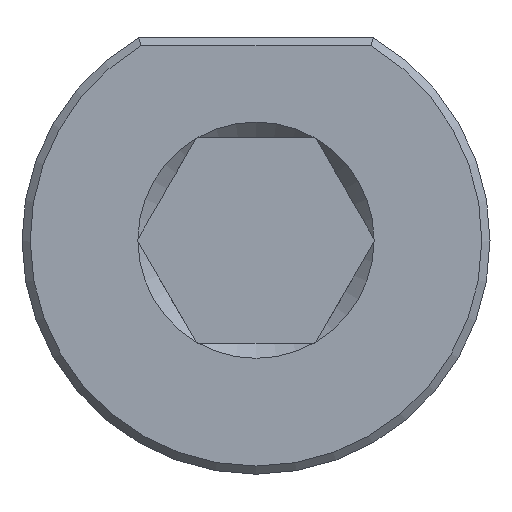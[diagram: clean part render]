
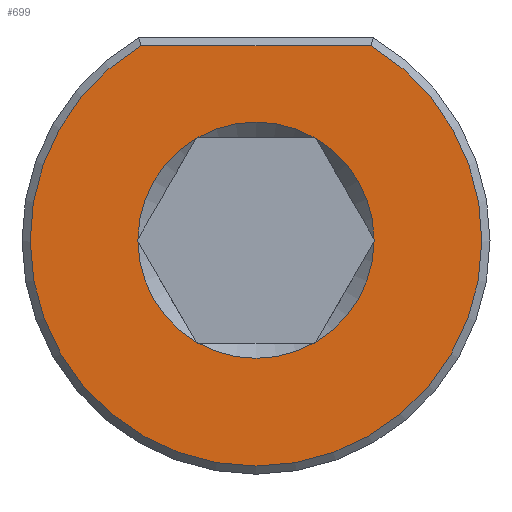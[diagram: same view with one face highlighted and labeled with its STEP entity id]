
A CAD part, front view. The second image highlights one B-rep face of the part: STEP entity #699.
In plain terms, the highlighted planar face has unit normal (0, -1, 0).
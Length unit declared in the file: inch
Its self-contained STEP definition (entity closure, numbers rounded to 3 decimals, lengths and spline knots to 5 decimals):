
#55=FACE_BOUND('',#142,.T.);
#69=PLANE('',#780);
#96=FACE_OUTER_BOUND('',#141,.T.);
#141=EDGE_LOOP('',(#540,#541));
#142=EDGE_LOOP('',(#542,#543,#544,#545,#546,#547,#548,#549,#550,#551,#552,
#553));
#191=LINE('',#1181,#226);
#226=VECTOR('',#946,0.3937);
#252=CIRCLE('',#752,0.217);
#253=CIRCLE('',#755,0.217);
#254=CIRCLE('',#758,0.217);
#255=CIRCLE('',#761,0.217);
#256=CIRCLE('',#764,0.217);
#257=CIRCLE('',#767,0.217);
#258=CIRCLE('',#769,0.217);
#259=CIRCLE('',#771,0.217);
#260=CIRCLE('',#773,0.217);
#261=CIRCLE('',#775,0.217);
#262=CIRCLE('',#777,0.217);
#263=CIRCLE('',#779,0.217);
#264=CIRCLE('',#781,0.415);
#308=VERTEX_POINT('',#1106);
#309=VERTEX_POINT('',#1108);
#310=VERTEX_POINT('',#1114);
#311=VERTEX_POINT('',#1118);
#312=VERTEX_POINT('',#1124);
#313=VERTEX_POINT('',#1128);
#314=VERTEX_POINT('',#1134);
#315=VERTEX_POINT('',#1138);
#316=VERTEX_POINT('',#1144);
#317=VERTEX_POINT('',#1148);
#318=VERTEX_POINT('',#1154);
#319=VERTEX_POINT('',#1158);
#320=VERTEX_POINT('',#1178);
#321=VERTEX_POINT('',#1179);
#378=EDGE_CURVE('',#310,#308,#252,.T.);
#382=EDGE_CURVE('',#312,#311,#253,.T.);
#386=EDGE_CURVE('',#314,#313,#254,.T.);
#389=EDGE_CURVE('',#309,#316,#255,.T.);
#393=EDGE_CURVE('',#317,#318,#256,.T.);
#397=EDGE_CURVE('',#319,#315,#257,.T.);
#398=EDGE_CURVE('',#311,#310,#258,.T.);
#399=EDGE_CURVE('',#313,#312,#259,.T.);
#400=EDGE_CURVE('',#315,#314,#260,.T.);
#401=EDGE_CURVE('',#318,#319,#261,.T.);
#402=EDGE_CURVE('',#316,#317,#262,.T.);
#403=EDGE_CURVE('',#308,#309,#263,.T.);
#404=EDGE_CURVE('',#320,#321,#264,.T.);
#405=EDGE_CURVE('',#321,#320,#191,.T.);
#540=ORIENTED_EDGE('',*,*,#404,.F.);
#541=ORIENTED_EDGE('',*,*,#405,.F.);
#542=ORIENTED_EDGE('',*,*,#397,.F.);
#543=ORIENTED_EDGE('',*,*,#401,.F.);
#544=ORIENTED_EDGE('',*,*,#393,.F.);
#545=ORIENTED_EDGE('',*,*,#402,.F.);
#546=ORIENTED_EDGE('',*,*,#389,.F.);
#547=ORIENTED_EDGE('',*,*,#403,.F.);
#548=ORIENTED_EDGE('',*,*,#378,.F.);
#549=ORIENTED_EDGE('',*,*,#398,.F.);
#550=ORIENTED_EDGE('',*,*,#382,.F.);
#551=ORIENTED_EDGE('',*,*,#399,.F.);
#552=ORIENTED_EDGE('',*,*,#386,.F.);
#553=ORIENTED_EDGE('',*,*,#400,.F.);
#699=ADVANCED_FACE('',(#96,#55),#69,.F.);
#752=AXIS2_PLACEMENT_3D('',#1116,#877,#878);
#755=AXIS2_PLACEMENT_3D('',#1126,#885,#886);
#758=AXIS2_PLACEMENT_3D('',#1136,#893,#894);
#761=AXIS2_PLACEMENT_3D('',#1145,#900,#901);
#764=AXIS2_PLACEMENT_3D('',#1155,#908,#909);
#767=AXIS2_PLACEMENT_3D('',#1164,#916,#917);
#769=AXIS2_PLACEMENT_3D('',#1166,#920,#921);
#771=AXIS2_PLACEMENT_3D('',#1168,#924,#925);
#773=AXIS2_PLACEMENT_3D('',#1170,#928,#929);
#775=AXIS2_PLACEMENT_3D('',#1172,#932,#933);
#777=AXIS2_PLACEMENT_3D('',#1174,#936,#937);
#779=AXIS2_PLACEMENT_3D('',#1176,#940,#941);
#780=AXIS2_PLACEMENT_3D('',#1177,#942,#943);
#781=AXIS2_PLACEMENT_3D('',#1180,#944,#945);
#877=DIRECTION('center_axis',(0.,-1.,0.));
#878=DIRECTION('ref_axis',(1.,0.,0.));
#885=DIRECTION('center_axis',(0.,-1.,0.));
#886=DIRECTION('ref_axis',(1.,0.,0.));
#893=DIRECTION('center_axis',(0.,-1.,0.));
#894=DIRECTION('ref_axis',(1.,0.,0.));
#900=DIRECTION('center_axis',(0.,-1.,0.));
#901=DIRECTION('ref_axis',(1.,0.,0.));
#908=DIRECTION('center_axis',(0.,-1.,0.));
#909=DIRECTION('ref_axis',(1.,0.,0.));
#916=DIRECTION('center_axis',(0.,-1.,0.));
#917=DIRECTION('ref_axis',(1.,0.,0.));
#920=DIRECTION('center_axis',(0.,-1.,0.));
#921=DIRECTION('ref_axis',(1.,0.,0.));
#924=DIRECTION('center_axis',(0.,-1.,0.));
#925=DIRECTION('ref_axis',(1.,0.,0.));
#928=DIRECTION('center_axis',(0.,-1.,0.));
#929=DIRECTION('ref_axis',(1.,0.,0.));
#932=DIRECTION('center_axis',(0.,-1.,0.));
#933=DIRECTION('ref_axis',(1.,0.,0.));
#936=DIRECTION('center_axis',(0.,-1.,0.));
#937=DIRECTION('ref_axis',(1.,0.,0.));
#940=DIRECTION('center_axis',(0.,-1.,0.));
#941=DIRECTION('ref_axis',(1.,0.,0.));
#942=DIRECTION('center_axis',(0.,1.,0.));
#943=DIRECTION('ref_axis',(1.,0.,0.));
#944=DIRECTION('center_axis',(0.,1.,0.));
#945=DIRECTION('ref_axis',(-0.502,0.,-0.865));
#946=DIRECTION('',(1.,0.,0.));
#1106=CARTESIAN_POINT('',(0.21699,0.,0.00216));
#1108=CARTESIAN_POINT('',(0.11037,0.,0.18684));
#1114=CARTESIAN_POINT('',(0.21699,0.,-0.00216));
#1116=CARTESIAN_POINT('Origin',(0.,0.,0.));
#1118=CARTESIAN_POINT('',(0.11037,0.,-0.18684));
#1124=CARTESIAN_POINT('',(0.10662,0.,-0.189));
#1126=CARTESIAN_POINT('Origin',(0.,0.,0.));
#1128=CARTESIAN_POINT('',(-0.10662,0.,-0.189));
#1134=CARTESIAN_POINT('',(-0.11037,0.,-0.18684));
#1136=CARTESIAN_POINT('Origin',(0.,0.,0.));
#1138=CARTESIAN_POINT('',(-0.21699,0.,-0.00216));
#1144=CARTESIAN_POINT('',(0.10662,0.,0.189));
#1145=CARTESIAN_POINT('Origin',(0.,0.,0.));
#1148=CARTESIAN_POINT('',(-0.10662,0.,0.189));
#1154=CARTESIAN_POINT('',(-0.11037,0.,0.18684));
#1155=CARTESIAN_POINT('Origin',(0.,0.,0.));
#1158=CARTESIAN_POINT('',(-0.21699,0.,0.00216));
#1164=CARTESIAN_POINT('Origin',(0.,0.,0.));
#1166=CARTESIAN_POINT('Origin',(0.,0.,0.));
#1168=CARTESIAN_POINT('Origin',(0.,0.,0.));
#1170=CARTESIAN_POINT('Origin',(0.,0.,0.));
#1172=CARTESIAN_POINT('Origin',(0.,0.,0.));
#1174=CARTESIAN_POINT('Origin',(0.,0.,0.));
#1176=CARTESIAN_POINT('Origin',(0.,0.,0.));
#1177=CARTESIAN_POINT('Origin',(0.,0.,-0.029));
#1178=CARTESIAN_POINT('',(0.2116,0.,0.357));
#1179=CARTESIAN_POINT('',(-0.2116,0.,0.357));
#1180=CARTESIAN_POINT('Origin',(0.,0.,0.));
#1181=CARTESIAN_POINT('',(-0.10784,0.,0.357));
